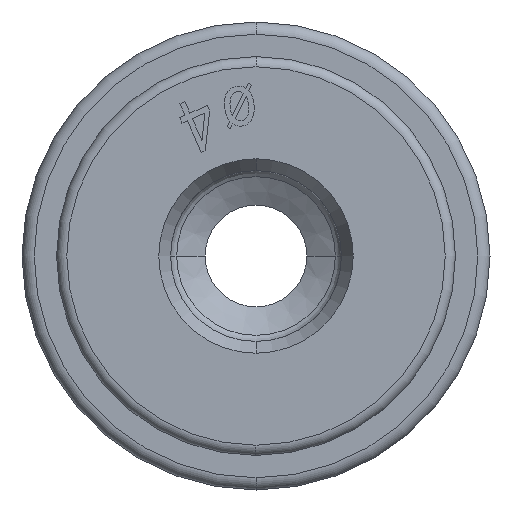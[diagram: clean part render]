
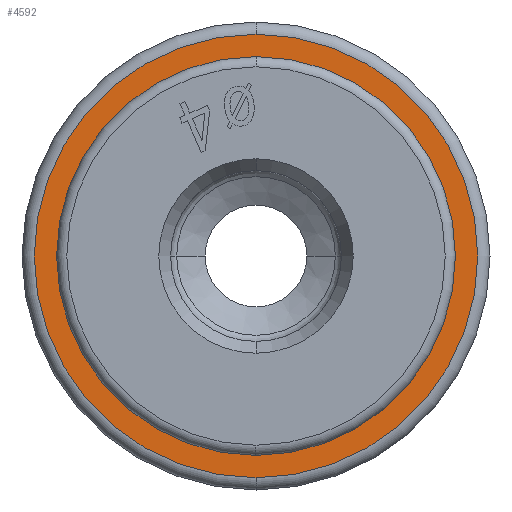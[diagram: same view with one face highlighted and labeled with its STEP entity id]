
A CAD part, front view. The second image highlights one B-rep face of the part: STEP entity #4592.
In plain terms, the highlighted planar face has unit normal (0, -1, 0).
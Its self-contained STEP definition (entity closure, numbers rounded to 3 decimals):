
#20 = EDGE_LOOP ( 'NONE', ( #264, #4410 ) ) ;
#157 = EDGE_CURVE ( 'NONE', #3106, #7485, #6475, .T. ) ;
#198 = CARTESIAN_POINT ( 'NONE',  ( 0., 0., 5.45 ) ) ;
#264 = ORIENTED_EDGE ( 'NONE', *, *, #6269, .T. ) ;
#265 = DIRECTION ( 'NONE',  ( 0., -1., 0. ) ) ;
#732 = DIRECTION ( 'NONE',  ( 0., 0., -1. ) ) ;
#752 = CIRCLE ( 'NONE', #1656, 4.9 ) ;
#976 = AXIS2_PLACEMENT_3D ( 'NONE', #5478, #7223, #4786 ) ;
#1371 = EDGE_LOOP ( 'NONE', ( #7075, #1915 ) ) ;
#1656 = AXIS2_PLACEMENT_3D ( 'NONE', #7463, #6456, #732 ) ;
#1752 = AXIS2_PLACEMENT_3D ( 'NONE', #1930, #265, #6907 ) ;
#1915 = ORIENTED_EDGE ( 'NONE', *, *, #157, .F. ) ;
#1930 = CARTESIAN_POINT ( 'NONE',  ( 0., 0., 0. ) ) ;
#2464 = FACE_BOUND ( 'NONE', #1371, .T. ) ;
#3106 = VERTEX_POINT ( 'NONE', #4502 ) ;
#3614 = VERTEX_POINT ( 'NONE', #198 ) ;
#4062 = CIRCLE ( 'NONE', #976, 5.45 ) ;
#4238 = DIRECTION ( 'NONE',  ( 0., -1., 0. ) ) ;
#4392 = EDGE_CURVE ( 'NONE', #3614, #6263, #6238, .T. ) ;
#4410 = ORIENTED_EDGE ( 'NONE', *, *, #4392, .T. ) ;
#4444 = AXIS2_PLACEMENT_3D ( 'NONE', #7956, #4238, #6696 ) ;
#4502 = CARTESIAN_POINT ( 'NONE',  ( 0., 0., 4.9 ) ) ;
#4534 = DIRECTION ( 'NONE',  ( 0., 0., -1. ) ) ;
#4592 = ADVANCED_FACE ( 'NONE', ( #2464, #7395 ), #7226, .T. ) ;
#4786 = DIRECTION ( 'NONE',  ( 0., 0., -1. ) ) ;
#5478 = CARTESIAN_POINT ( 'NONE',  ( 0., 0., 0. ) ) ;
#6026 = AXIS2_PLACEMENT_3D ( 'NONE', #7111, #7724, #4534 ) ;
#6238 = CIRCLE ( 'NONE', #1752, 5.45 ) ;
#6263 = VERTEX_POINT ( 'NONE', #6827 ) ;
#6269 = EDGE_CURVE ( 'NONE', #6263, #3614, #4062, .T. ) ;
#6456 = DIRECTION ( 'NONE',  ( 0., -1., 0. ) ) ;
#6475 = CIRCLE ( 'NONE', #6026, 4.9 ) ;
#6696 = DIRECTION ( 'NONE',  ( 0., 0., -1. ) ) ;
#6819 = CARTESIAN_POINT ( 'NONE',  ( 0., 0., -4.9 ) ) ;
#6827 = CARTESIAN_POINT ( 'NONE',  ( 0., 0., -5.45 ) ) ;
#6907 = DIRECTION ( 'NONE',  ( 0., 0., -1. ) ) ;
#7075 = ORIENTED_EDGE ( 'NONE', *, *, #7315, .F. ) ;
#7111 = CARTESIAN_POINT ( 'NONE',  ( 0., 0., 0. ) ) ;
#7223 = DIRECTION ( 'NONE',  ( 0., -1., 0. ) ) ;
#7226 = PLANE ( 'NONE',  #4444 ) ;
#7315 = EDGE_CURVE ( 'NONE', #7485, #3106, #752, .T. ) ;
#7395 = FACE_OUTER_BOUND ( 'NONE', #20, .T. ) ;
#7463 = CARTESIAN_POINT ( 'NONE',  ( 0., 0., 0. ) ) ;
#7485 = VERTEX_POINT ( 'NONE', #6819 ) ;
#7724 = DIRECTION ( 'NONE',  ( 0., -1., 0. ) ) ;
#7956 = CARTESIAN_POINT ( 'NONE',  ( 0., 0., 0. ) ) ;
